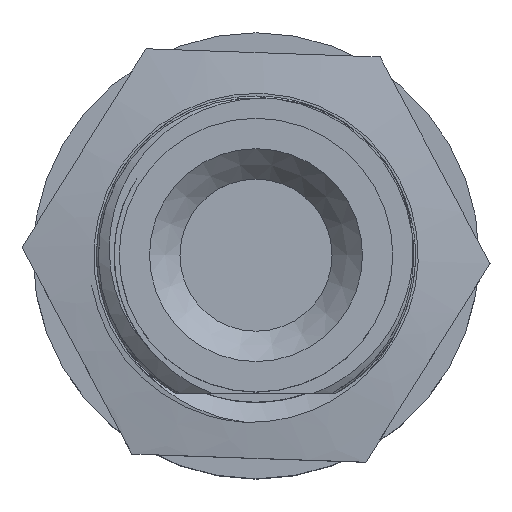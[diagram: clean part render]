
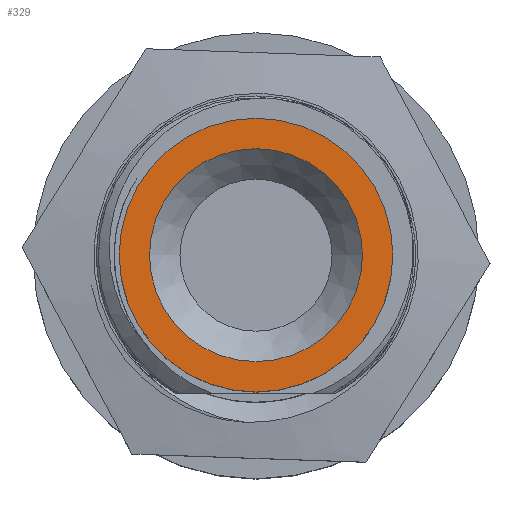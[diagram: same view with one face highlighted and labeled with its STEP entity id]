
A CAD part, top view. The second image highlights one B-rep face of the part: STEP entity #329.
In plain terms, the highlighted planar face has unit normal (0, 0, 1).
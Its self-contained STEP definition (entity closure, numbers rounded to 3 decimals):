
#329 = ADVANCED_FACE( '', ( #635, #636 ), #637, .F. );
#635 = FACE_BOUND( '', #4814, .T. );
#636 = FACE_OUTER_BOUND( '', #4815, .T. );
#637 = PLANE( '', #4816 );
#4814 = EDGE_LOOP( '', ( #14009 ) );
#4815 = EDGE_LOOP( '', ( #14010 ) );
#4816 = AXIS2_PLACEMENT_3D( '', #14011, #14012, #14013 );
#14009 = ORIENTED_EDGE( '', *, *, #14694, .T. );
#14010 = ORIENTED_EDGE( '', *, *, #14695, .F. );
#14011 = CARTESIAN_POINT( '', ( 0., 0., 11.7 ) );
#14012 = DIRECTION( '', ( 0., 0., -1. ) );
#14013 = DIRECTION( '', ( -1., 0., 0. ) );
#14694 = EDGE_CURVE( '', #15067, #15067, #15068, .T. );
#14695 = EDGE_CURVE( '', #15069, #15069, #15070, .T. );
#15067 = VERTEX_POINT( '', #17443 );
#15068 = CIRCLE( '', #17444, 2.625 );
#15069 = VERTEX_POINT( '', #17445 );
#15070 = CIRCLE( '', #17446, 3.375 );
#17443 = CARTESIAN_POINT( '', ( -2.625, 0., 11.7 ) );
#17444 = AXIS2_PLACEMENT_3D( '', #20026, #20027, #20028 );
#17445 = CARTESIAN_POINT( '', ( 0., -3.375, 11.7 ) );
#17446 = AXIS2_PLACEMENT_3D( '', #20029, #20030, #20031 );
#20026 = CARTESIAN_POINT( '', ( 0., 0., 11.7 ) );
#20027 = DIRECTION( '', ( 0., 0., -1. ) );
#20028 = DIRECTION( '', ( -1., 0., 0. ) );
#20029 = CARTESIAN_POINT( '', ( 0., 0., 11.7 ) );
#20030 = DIRECTION( '', ( 0., 0., -1. ) );
#20031 = DIRECTION( '', ( 0., -1., 0. ) );
